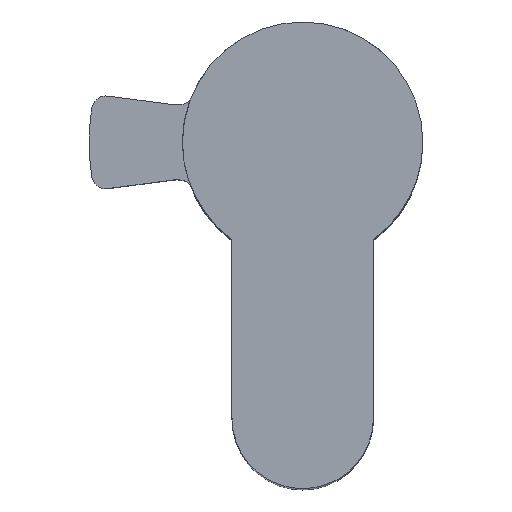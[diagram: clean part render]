
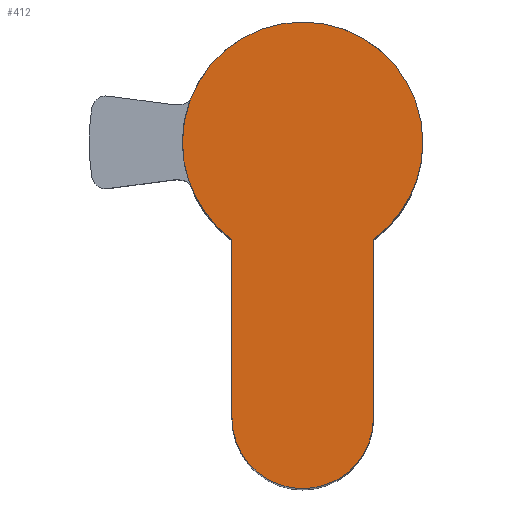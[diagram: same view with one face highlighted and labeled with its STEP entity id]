
A CAD part, top view. The second image highlights one B-rep face of the part: STEP entity #412.
In plain terms, the highlighted planar face has unit normal (0, 0, 1).
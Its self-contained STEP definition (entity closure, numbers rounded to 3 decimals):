
#9 = CARTESIAN_POINT ( 'NONE',  ( -5., -6.874, 10. ) ) ;
#14 = DIRECTION ( 'NONE',  ( 0., 1., 0. ) ) ;
#21 = DIRECTION ( 'NONE',  ( 0., -1., 0. ) ) ;
#70 = CIRCLE ( 'NONE', #524, 8.5 ) ;
#78 = DIRECTION ( 'NONE',  ( 0., 0., 1. ) ) ;
#96 = AXIS2_PLACEMENT_3D ( 'NONE', #1535, #939, #1290 ) ;
#164 = DIRECTION ( 'NONE',  ( 0., 0., 1. ) ) ;
#190 = AXIS2_PLACEMENT_3D ( 'NONE', #560, #1200, #926 ) ;
#208 = CARTESIAN_POINT ( 'NONE',  ( 0., 0., 10. ) ) ;
#307 = EDGE_CURVE ( 'NONE', #1072, #1482, #748, .T. ) ;
#362 = LINE ( 'NONE', #1119, #608 ) ;
#384 = CARTESIAN_POINT ( 'NONE',  ( 5., -19.5, 10. ) ) ;
#412 = ADVANCED_FACE ( 'NONE', ( #434 ), #1508, .T. ) ;
#431 = EDGE_LOOP ( 'NONE', ( #1065, #1366, #1167, #634, #1133, #844 ) ) ;
#433 = VERTEX_POINT ( 'NONE', #1286 ) ;
#434 = FACE_OUTER_BOUND ( 'NONE', #431, .T. ) ;
#446 = EDGE_CURVE ( 'NONE', #433, #988, #1487, .T. ) ;
#451 = CIRCLE ( 'NONE', #657, 5. ) ;
#479 = CARTESIAN_POINT ( 'NONE',  ( 0., -19.5, 10. ) ) ;
#524 = AXIS2_PLACEMENT_3D ( 'NONE', #208, #78, #566 ) ;
#560 = CARTESIAN_POINT ( 'NONE',  ( 0., 0., 10. ) ) ;
#566 = DIRECTION ( 'NONE',  ( 1., 0., 0. ) ) ;
#587 = EDGE_CURVE ( 'NONE', #849, #1072, #451, .T. ) ;
#608 = VECTOR ( 'NONE', #21, 1000. ) ;
#634 = ORIENTED_EDGE ( 'NONE', *, *, #668, .T. ) ;
#648 = CARTESIAN_POINT ( 'NONE',  ( 8.5, 0., 10. ) ) ;
#657 = AXIS2_PLACEMENT_3D ( 'NONE', #479, #754, #722 ) ;
#668 = EDGE_CURVE ( 'NONE', #988, #849, #362, .T. ) ;
#722 = DIRECTION ( 'NONE',  ( 1., 0., 0. ) ) ;
#746 = VERTEX_POINT ( 'NONE', #648 ) ;
#748 = LINE ( 'NONE', #984, #1315 ) ;
#754 = DIRECTION ( 'NONE',  ( 0., 0., 1. ) ) ;
#844 = ORIENTED_EDGE ( 'NONE', *, *, #307, .T. ) ;
#849 = VERTEX_POINT ( 'NONE', #950 ) ;
#926 = DIRECTION ( 'NONE',  ( 1., 0., 0. ) ) ;
#931 = EDGE_CURVE ( 'NONE', #1482, #746, #70, .T. ) ;
#939 = DIRECTION ( 'NONE',  ( 0., 0., 1. ) ) ;
#950 = CARTESIAN_POINT ( 'NONE',  ( -5., -19.5, 10. ) ) ;
#984 = CARTESIAN_POINT ( 'NONE',  ( 5., -19.5, 10. ) ) ;
#988 = VERTEX_POINT ( 'NONE', #9 ) ;
#1065 = ORIENTED_EDGE ( 'NONE', *, *, #931, .T. ) ;
#1072 = VERTEX_POINT ( 'NONE', #384 ) ;
#1117 = CIRCLE ( 'NONE', #96, 8.5 ) ;
#1119 = CARTESIAN_POINT ( 'NONE',  ( -5., -6.874, 10. ) ) ;
#1133 = ORIENTED_EDGE ( 'NONE', *, *, #587, .T. ) ;
#1167 = ORIENTED_EDGE ( 'NONE', *, *, #446, .T. ) ;
#1196 = CARTESIAN_POINT ( 'NONE',  ( 5., -6.874, 10. ) ) ;
#1200 = DIRECTION ( 'NONE',  ( 0., 0., 1. ) ) ;
#1286 = CARTESIAN_POINT ( 'NONE',  ( -8.5, 0., 10. ) ) ;
#1287 = EDGE_CURVE ( 'NONE', #746, #433, #1117, .T. ) ;
#1290 = DIRECTION ( 'NONE',  ( 1., 0., 0. ) ) ;
#1315 = VECTOR ( 'NONE', #14, 1000. ) ;
#1366 = ORIENTED_EDGE ( 'NONE', *, *, #1287, .T. ) ;
#1462 = AXIS2_PLACEMENT_3D ( 'NONE', #1514, #164, #1486 ) ;
#1482 = VERTEX_POINT ( 'NONE', #1196 ) ;
#1486 = DIRECTION ( 'NONE',  ( 1., 0., 0. ) ) ;
#1487 = CIRCLE ( 'NONE', #190, 8.5 ) ;
#1508 = PLANE ( 'NONE',  #1462 ) ;
#1514 = CARTESIAN_POINT ( 'NONE',  ( 0., 0., 10. ) ) ;
#1535 = CARTESIAN_POINT ( 'NONE',  ( 0., 0., 10. ) ) ;
